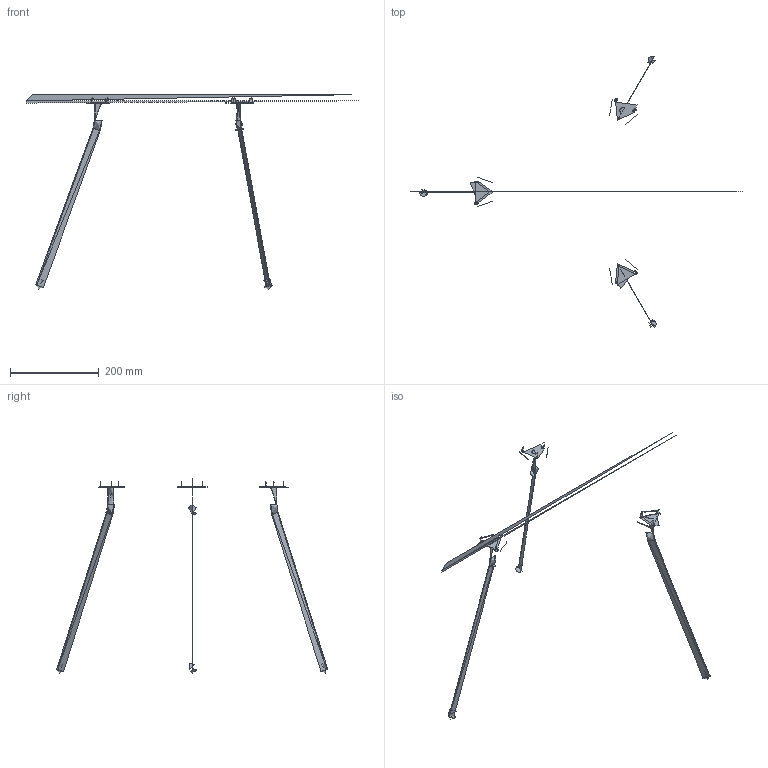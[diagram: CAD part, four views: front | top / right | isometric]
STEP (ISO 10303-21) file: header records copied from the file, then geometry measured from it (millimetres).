
FILE_DESCRIPTION(/* description */ (''),/* implementation_level */ '2;1');
FILE_NAME(/* name */ '110526_Soround large',/* time_stamp */ '2019-09-18T15:52:51+02:00',/* author */ (''),/* organization */ (''),/* preprocessor_version */ 'ST-DEVELOPER v15',/* originating_system */ '',/* authorisation */ '');
FILE_SCHEMA (('AUTOMOTIVE_DESIGN'));
Length unit declared in the file: millimetre
Products named in the file (1): Document
Bounding box: 750 x 612.45 x 439.76 mm (x, y, z)
Surface area: 1070107.6 mm2 (no closed solid volume)
Topology: 0 solids, 201 shells, 201 faces, 977 edges, 1057 vertices
Faces by surface type: bspline 166, plane 35
Entity records: 15409 total; most frequent: CARTESIAN_POINT 7708, COLOUR_RGB 728, PRESENTATION_STYLE_ASSIGNMENT 728, STYLED_ITEM 728, PRESENTATION_LAYER_ASSIGNMENT 728, CURVE_STYLE 525, ORIENTED_EDGE 428, EDGE_CURVE 428
